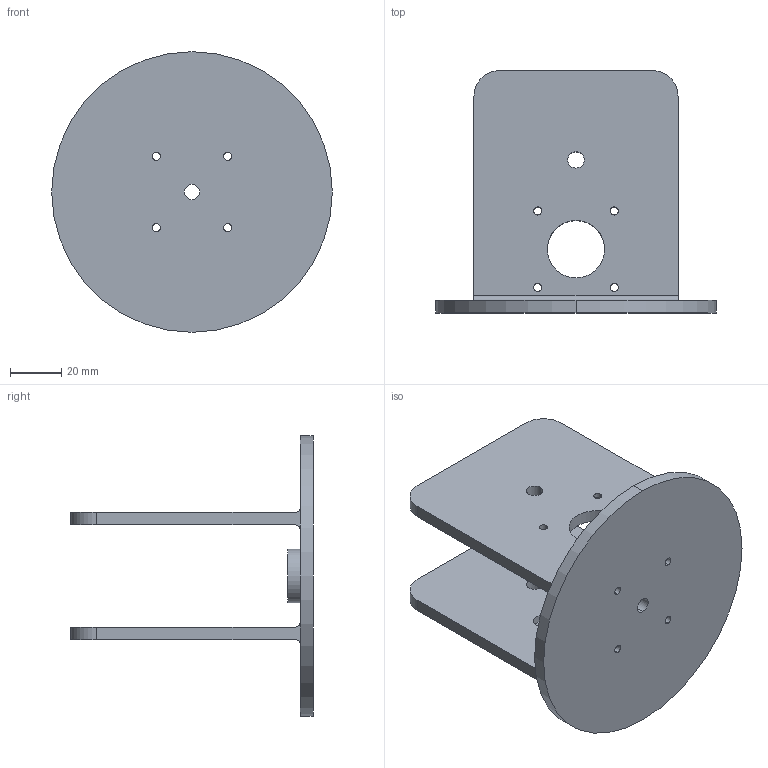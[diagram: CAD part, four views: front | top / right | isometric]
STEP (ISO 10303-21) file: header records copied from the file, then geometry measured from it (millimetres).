
FILE_DESCRIPTION (( 'STEP AP203' ), '1' );
FILE_NAME ('baseholder.STEP', '2017-06-25T11:36:18', ( '' ), ( '' ), 'SwSTEP 2.0', 'SolidWorks 2016', '' );
FILE_SCHEMA (( 'CONFIG_CONTROL_DESIGN' ));
Length unit declared in the file: millimetre
Products named in the file (1): baseholder
Bounding box: 110 x 95 x 110 mm (x, y, z)
Volume: 114269.3 mm3; surface area: 51377.3 mm2
Topology: 1 solids, 1 shells, 94 faces, 244 edges, 160 vertices
Faces by surface type: cylinder 68, plane 22, bspline 4
Entity records: 3315 total; most frequent: CARTESIAN_POINT 745, DIRECTION 566, ORIENTED_EDGE 488, EDGE_CURVE 244, AXIS2_PLACEMENT_3D 235, VERTEX_POINT 160, CIRCLE 144, EDGE_LOOP 136
